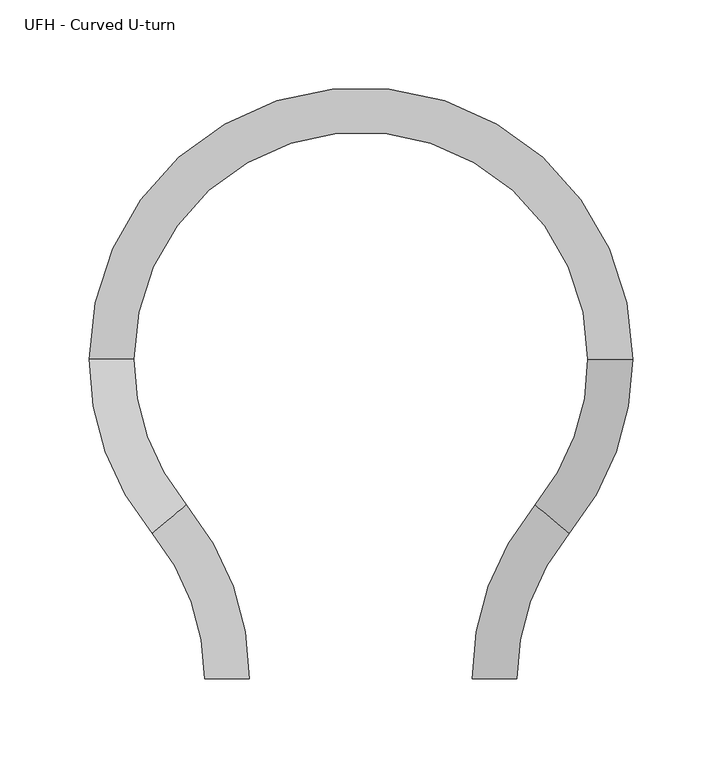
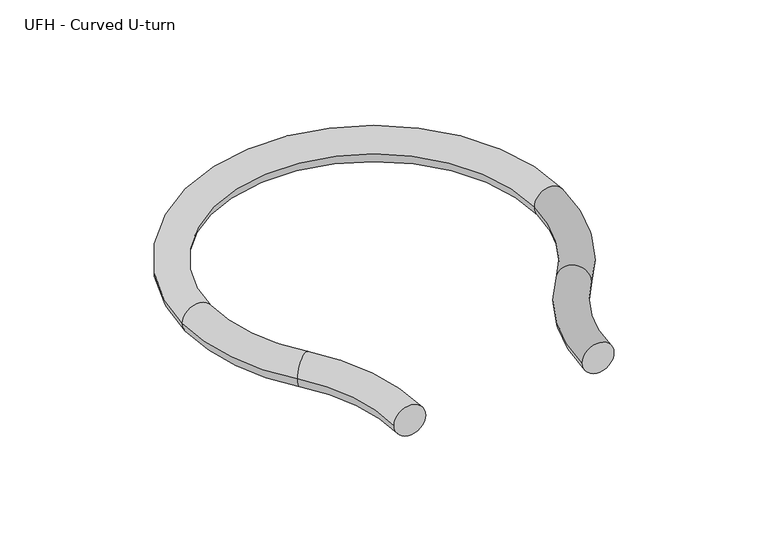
"""IFC4 building model written with IfcOpenShell, lengths in millimetres: pipe fitting geometry, UFH - Curved U-turn : Superpipe 2+ UFH Curved U-turn  - VA150."""

from ifc_helpers import new_model, si_unit, point, frame, origin, place, context, project, spatial, circle_curve, ellipse_curve, trimmed, source, transform, mapped, element, save
from ifc_brep_helpers import plane_surface, revolved_surface, advanced_brep


def ufh_curved_u_turn_8fc7172f(model_context):
    return source(origin(), model_context, "Body", "AdvancedBrep", [
        advanced_brep(
        [(12.5, 0.0, 0.0), (-12.5, 0.0, 0.0), (-42.0982143, 81.6791917, 0.0), (-22.9017857, 97.6947195, 0.0), (-77.5000002, 179.3739111, 0.0), (-52.5000002, 179.3739111, 0.0), (227.4999998, 179.3739111, 0.0), (202.4999998, 179.3739111, 0.0), (192.0982142, 81.6791917, 0.0), (172.9017856, 97.6947195, 0.0), (137.5, 0.0, 0.0), (162.5, 0.0, 0.0)],
        [
            (0, 1, circle_curve(frame((0.0, 0.0, 0.0), z_axis=(0.0, -1.0, 0.0), x_axis=(-1.0, 0.0, 0.0)), 12.5)),
            (1, 0, circle_curve(frame((0.0, 0.0, 0.0), z_axis=(0.0, -1.0, 0.0), x_axis=(-1.0, 0.0, 0.0)), 12.5)),
            (2, 1, circle_curve(frame((-140.0, 0.0, 0.0), z_axis=(0.0, 0.0, -1.0), x_axis=(1.0, 0.0, 0.0)), 127.5)),
            (0, 3, circle_curve(frame((-140.0, 0.0, 0.0), z_axis=(0.0, 0.0, 1.0), x_axis=(1.0, 0.0, 0.0)), 152.5)),
            (3, 2, circle_curve(frame((-32.5, 89.6869556, 0.0), z_axis=(0.6406211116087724, -0.7678571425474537, 0.0), x_axis=(-0.7678571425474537, -0.6406211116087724, 0.0)), 12.5)),
            (2, 3, circle_curve(frame((-32.5, 89.6869556, 0.0), z_axis=(0.6406211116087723, -0.7678571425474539, 0.0), x_axis=(-0.7678571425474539, -0.6406211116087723, 0.0)), 12.5)),
            (4, 2, circle_curve(frame((74.9999998, 179.3739111, 0.0), z_axis=(0.0, 0.0, 1.0), x_axis=(-0.7678571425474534, -0.6406211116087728, 0.0)), 152.5)),
            (3, 5, circle_curve(frame((74.9999998, 179.3739111, 0.0), z_axis=(0.0, 0.0, -1.0), x_axis=(-0.7678571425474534, -0.6406211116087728, 0.0)), 127.5)),
            (5, 4, circle_curve(frame((-65.0000002, 179.3739111, 0.0), z_axis=(0.0, -1.0, 0.0), x_axis=(-1.0, 0.0, 0.0)), 12.5)),
            (4, 5, circle_curve(frame((-65.0000002, 179.3739111, 0.0), z_axis=(0.0, -0.9999999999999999, 0.0), x_axis=(-0.9999999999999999, 0.0, 0.0)), 12.5)),
            (6, 4, circle_curve(frame((74.9999998, 179.3739111, 0.0), z_axis=(0.0, 0.0, 1.0), x_axis=(-1.0, 0.0, 0.0)), 152.5)),
            (5, 7, circle_curve(frame((74.9999998, 179.3739111, 0.0), z_axis=(0.0, 0.0, -1.0), x_axis=(-1.0, 0.0, 0.0)), 127.5)),
            (7, 6, circle_curve(frame((214.9999998, 179.3739111, 0.0), z_axis=(0.0, 1.0, 0.0), x_axis=(1.0, 0.0, 0.0)), 12.5)),
            (6, 7, circle_curve(frame((214.9999998, 179.3739111, 0.0), z_axis=(0.0, 1.0, 0.0), x_axis=(1.0, 0.0, 0.0)), 12.5)),
            (8, 6, circle_curve(frame((74.9999998, 179.3739111, 0.0), z_axis=(0.0, 0.0, 1.0), x_axis=(1.0, 0.0, 0.0)), 152.5)),
            (7, 9, circle_curve(frame((74.9999998, 179.3739111, 0.0), z_axis=(0.0, 0.0, -1.0), x_axis=(1.0, 0.0, 0.0)), 127.5)),
            (9, 8, circle_curve(frame((182.4999999, 89.6869556, 0.0), z_axis=(0.6406211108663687, 0.7678571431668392, 0.0), x_axis=(0.7678571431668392, -0.6406211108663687, 0.0)), 12.5)),
            (8, 9, circle_curve(frame((182.4999999, 89.6869556, 0.0), z_axis=(0.6406211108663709, 0.7678571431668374, 0.0), x_axis=(0.7678571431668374, -0.6406211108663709, 0.0)), 12.5)),
            (10, 11, circle_curve(frame((150.0, 0.0, 0.0), z_axis=(0.0, -0.9999999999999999, 0.0), x_axis=(0.9999999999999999, 0.0, 0.0)), 12.5)),
            (11, 10, circle_curve(frame((150.0, 0.0, 0.0), z_axis=(0.0, -0.9999999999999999, 0.0), x_axis=(0.9999999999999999, 0.0, 0.0)), 12.5)),
            (11, 8, circle_curve(frame((290.0, 0.0, 0.0), z_axis=(0.0, 0.0, -1.0), x_axis=(-0.7678571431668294, 0.6406211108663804, 0.0)), 127.5)),
            (9, 10, circle_curve(frame((290.0, 0.0, 0.0), z_axis=(0.0, 0.0, 1.0), x_axis=(-0.7678571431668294, 0.6406211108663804, 0.0)), 152.5)),
        ],
        [
            plane_surface(frame((0.0, 0.0, 0.0), z_axis=(0.0, -1.0, 0.0), x_axis=(0.0, 0.0, 1.0))),
            revolved_surface(trimmed(ellipse_curve(frame((0.0, 0.0, 0.0), z_axis=(0.0, -1.0, 0.0), x_axis=(-1.0, 0.0, 0.0)), 12.5, 12.5), [point((12.5, 0.0, 0.0))], [point((-12.5, 0.0, 0.0))], True, "CARTESIAN"), (-140.0, 0.0, 0.0), (0.0, 0.0, 1.0)),
            revolved_surface(trimmed(ellipse_curve(frame((0.0, 0.0, 0.0), z_axis=(0.0, -1.0, 0.0), x_axis=(-1.0, 0.0, 0.0)), 12.5, 12.5), [point((-12.5, 0.0, 0.0))], [point((12.5, 0.0, 0.0))], True, "CARTESIAN"), (-140.0, 0.0, 0.0), (0.0, 0.0, 1.0)),
            revolved_surface(trimmed(ellipse_curve(frame((-32.5000001, 89.6869555, 0.0), z_axis=(0.6406211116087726, -0.7678571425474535, 0.0), x_axis=(-0.7678571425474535, -0.6406211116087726, 0.0)), 12.5, 12.5), [point((-22.9017858, 97.6947194, 0.0))], [point((-42.0982144, 81.6791916, 0.0))], True, "CARTESIAN"), (74.9999998, 179.3739111, 0.0), (0.0, 0.0, -1.0)),
            revolved_surface(trimmed(ellipse_curve(frame((-32.5000001, 89.6869555, 0.0), z_axis=(0.6406211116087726, -0.7678571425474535, 0.0), x_axis=(-0.7678571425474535, -0.6406211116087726, 0.0)), 12.5, 12.5), [point((-42.0982144, 81.6791916, 0.0))], [point((-22.9017858, 97.6947194, 0.0))], True, "CARTESIAN"), (74.9999998, 179.3739111, 0.0), (0.0, 0.0, -1.0)),
            revolved_surface(trimmed(ellipse_curve(frame((-65.0000002, 179.3739111, 0.0), z_axis=(0.0, -1.0, 0.0), x_axis=(-1.0, 0.0, 0.0)), 12.5, 12.5), [point((-52.5000002, 179.3739111, 0.0))], [point((-77.5000002, 179.3739111, 0.0))], True, "CARTESIAN"), (74.9999998, 179.3739111, 0.0), (0.0, 0.0, -1.0)),
            revolved_surface(trimmed(ellipse_curve(frame((-65.0000002, 179.3739111, 0.0), z_axis=(0.0, -1.0, 0.0), x_axis=(-1.0, 0.0, 0.0)), 12.5, 12.5), [point((-77.5000002, 179.3739111, 0.0))], [point((-52.5000002, 179.3739111, 0.0))], True, "CARTESIAN"), (74.9999998, 179.3739111, 0.0), (0.0, 0.0, -1.0)),
            revolved_surface(trimmed(ellipse_curve(frame((214.9999998, 179.3739111, 0.0), z_axis=(0.0, 1.0, 0.0), x_axis=(1.0, 0.0, 0.0)), 12.5, 12.5), [point((202.4999998, 179.3739111, 0.0))], [point((227.4999998, 179.3739111, 0.0))], True, "CARTESIAN"), (74.9999998, 179.3739111, 0.0), (0.0, 0.0, -1.0)),
            revolved_surface(trimmed(ellipse_curve(frame((214.9999998, 179.3739111, 0.0), z_axis=(0.0, 1.0, 0.0), x_axis=(1.0, 0.0, 0.0)), 12.5, 12.5), [point((227.4999998, 179.3739111, 0.0))], [point((202.4999998, 179.3739111, 0.0))], True, "CARTESIAN"), (74.9999998, 179.3739111, 0.0), (0.0, 0.0, -1.0)),
            plane_surface(frame((150.0, 0.0, 0.0), z_axis=(0.0, -1.0, 0.0), x_axis=(0.0, 0.0, 1.0))),
            revolved_surface(trimmed(ellipse_curve(frame((182.5, 89.6869555, 0.0), z_axis=(0.6406211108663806, 0.7678571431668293, 0.0), x_axis=(0.7678571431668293, -0.6406211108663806, 0.0)), 12.5, 12.5), [point((172.9017857, 97.6947194, 0.0))], [point((192.0982143, 81.6791916, 0.0))], True, "CARTESIAN"), (290.0, 0.0, 0.0), (0.0, 0.0, 1.0)),
            revolved_surface(trimmed(ellipse_curve(frame((182.5, 89.6869555, 0.0), z_axis=(0.6406211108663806, 0.7678571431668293, 0.0), x_axis=(0.7678571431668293, -0.6406211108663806, 0.0)), 12.5, 12.5), [point((192.0982143, 81.6791916, 0.0))], [point((172.9017857, 97.6947194, 0.0))], True, "CARTESIAN"), (290.0, 0.0, 0.0), (0.0, 0.0, 1.0)),
        ],
        [
            (0, [[1, 2]]),
            (1, [[3, -1, 4, 5]]),
            (2, [[-4, -2, -3, 6]]),
            (3, [[7, -5, 8, 9]]),
            (4, [[-8, -6, -7, 10]]),
            (5, [[11, -9, 12, 13]]),
            (6, [[-12, -10, -11, 14]]),
            (7, [[15, -13, 16, 17]]),
            (8, [[-16, -14, -15, 18]]),
            (9, [[19, 20]]),
            (10, [[21, -17, 22, -20]]),
            (11, [[-22, -18, -21, -19]]),
        ],
    ),
    ])


if __name__ == "__main__":
    model = new_model("IFC4")
    model_context = context("Model", 3, world=origin())
    ifc_project = project(units=[si_unit("LENGTHUNIT", "METRE", prefix="MILLI")], contexts=[model_context])
    site = spatial("IfcSite", under=ifc_project)
    building = spatial("IfcBuilding", under=site)
    placement = place(None, origin())
    ufh_curved_u_turn_shape = ufh_curved_u_turn_8fc7172f(model_context)
    element("IfcPipeFitting", 1, ObjectType="UFH - Curved U-turn : Superpipe 2+ UFH Curved U-turn  - VA150", at=placement, inside=building, context=model_context, shape_type="MappedRepresentation", body=[
        mapped(ufh_curved_u_turn_shape, transform((0.0, 0.0, 0.0), x_axis=(1.0, 0.0, 0.0), y_axis=(0.0, 1.0, 0.0), z_axis=(0.0, 0.0, 1.0))),
    ])
    save(model, "model.ifc")
